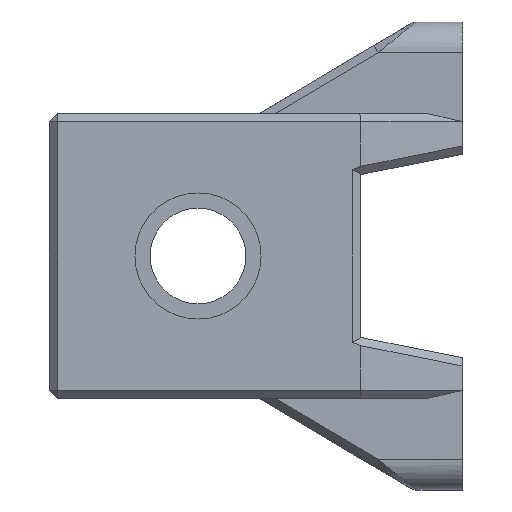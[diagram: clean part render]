
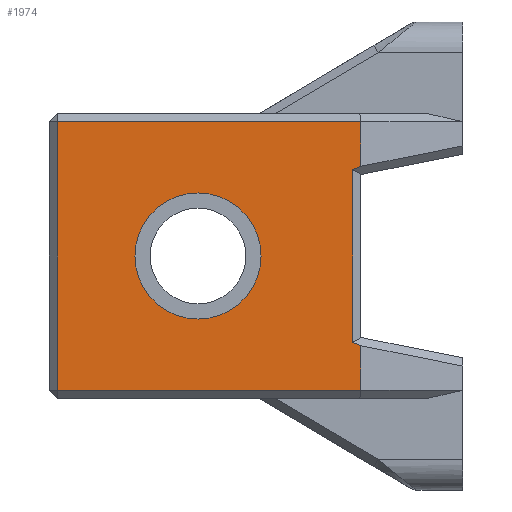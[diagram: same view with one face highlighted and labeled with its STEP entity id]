
A CAD part, left-side view. The second image highlights one B-rep face of the part: STEP entity #1974.
In plain terms, the highlighted planar face has unit normal (-1, 0, 0).
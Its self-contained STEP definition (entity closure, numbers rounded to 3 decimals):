
#88 = CARTESIAN_POINT ( 'NONE',  ( -26.575, 27., 35. ) ) ;
#120 = LINE ( 'NONE', #3238, #170 ) ;
#170 = VECTOR ( 'NONE', #258, 1000. ) ;
#258 = DIRECTION ( 'NONE',  ( 0., 0.92, 0.393 ) ) ;
#371 = EDGE_LOOP ( 'NONE', ( #1910, #1904, #1062, #1058, #1344, #1650, #1210, #886 ) ) ;
#400 = LINE ( 'NONE', #88, #1724 ) ;
#680 = VECTOR ( 'NONE', #5030, 1000. ) ;
#740 = VERTEX_POINT ( 'NONE', #3927 ) ;
#749 = CARTESIAN_POINT ( 'NONE',  ( -26.575, 25., 165. ) ) ;
#802 = AXIS2_PLACEMENT_3D ( 'NONE', #1448, #1663, #1681 ) ;
#886 = ORIENTED_EDGE ( 'NONE', *, *, #3656, .T. ) ;
#910 = CARTESIAN_POINT ( 'NONE',  ( -26.575, 27., 21.184 ) ) ;
#1010 = PLANE ( 'NONE',  #802 ) ;
#1058 = ORIENTED_EDGE ( 'NONE', *, *, #4038, .T. ) ;
#1062 = ORIENTED_EDGE ( 'NONE', *, *, #3890, .F. ) ;
#1081 = VECTOR ( 'NONE', #1570, 1000. ) ;
#1085 = LINE ( 'NONE', #749, #1081 ) ;
#1114 = EDGE_CURVE ( 'NONE', #3269, #1872, #5269, .T. ) ;
#1137 = VERTEX_POINT ( 'NONE', #910 ) ;
#1187 = AXIS2_PLACEMENT_3D ( 'NONE', #3886, #3482, #1296 ) ;
#1200 = DIRECTION ( 'NONE',  ( 0., -0.92, 0.393 ) ) ;
#1210 = ORIENTED_EDGE ( 'NONE', *, *, #3191, .F. ) ;
#1296 = DIRECTION ( 'NONE',  ( 0., 0., 1. ) ) ;
#1333 = CIRCLE ( 'NONE', #2947, 15.5 ) ;
#1344 = ORIENTED_EDGE ( 'NONE', *, *, #4229, .T. ) ;
#1383 = DIRECTION ( 'NONE',  ( 0., 1., 0. ) ) ;
#1448 = CARTESIAN_POINT ( 'NONE',  ( -26.575, 101.5, 35. ) ) ;
#1543 = ORIENTED_EDGE ( 'NONE', *, *, #1114, .F. ) ;
#1547 = ORIENTED_EDGE ( 'NONE', *, *, #3099, .F. ) ;
#1557 = LINE ( 'NONE', #1853, #2701 ) ;
#1570 = DIRECTION ( 'NONE',  ( 0., 0., -1. ) ) ;
#1650 = ORIENTED_EDGE ( 'NONE', *, *, #2703, .T. ) ;
#1663 = DIRECTION ( 'NONE',  ( 1., 0., 0. ) ) ;
#1681 = DIRECTION ( 'NONE',  ( 0., 0., -1. ) ) ;
#1724 = VECTOR ( 'NONE', #3062, 1000. ) ;
#1766 = VECTOR ( 'NONE', #3264, 1000. ) ;
#1800 = LINE ( 'NONE', #3982, #1766 ) ;
#1807 = CARTESIAN_POINT ( 'NONE',  ( -26.575, 101.5, 33. ) ) ;
#1839 = VERTEX_POINT ( 'NONE', #2713 ) ;
#1853 = CARTESIAN_POINT ( 'NONE',  ( -26.575, 25., 165. ) ) ;
#1872 = VERTEX_POINT ( 'NONE', #4611 ) ;
#1904 = ORIENTED_EDGE ( 'NONE', *, *, #3716, .T. ) ;
#1910 = ORIENTED_EDGE ( 'NONE', *, *, #3504, .T. ) ;
#1974 = ADVANCED_FACE ( 'NONE', ( #2473, #2464 ), #1010, .F. ) ;
#2153 = CARTESIAN_POINT ( 'NONE',  ( -26.575, 99.5, 35. ) ) ;
#2284 = DIRECTION ( 'NONE',  ( 0., 0., -1. ) ) ;
#2360 = LINE ( 'NONE', #4198, #4375 ) ;
#2464 = FACE_OUTER_BOUND ( 'NONE', #371, .T. ) ;
#2473 = FACE_BOUND ( 'NONE', #4751, .T. ) ;
#2519 = CARTESIAN_POINT ( 'NONE',  ( -26.575, 99.5, -33. ) ) ;
#2701 = VECTOR ( 'NONE', #2284, 1000. ) ;
#2703 = EDGE_CURVE ( 'NONE', #4878, #4514, #1800, .T. ) ;
#2713 = CARTESIAN_POINT ( 'NONE',  ( -26.575, 27., -21.184 ) ) ;
#2766 = VERTEX_POINT ( 'NONE', #3669 ) ;
#2905 = CARTESIAN_POINT ( 'NONE',  ( -26.575, 65., -15.5 ) ) ;
#2947 = AXIS2_PLACEMENT_3D ( 'NONE', #3659, #4748, #3787 ) ;
#3023 = CARTESIAN_POINT ( 'NONE',  ( -26.575, 25., -22.037 ) ) ;
#3062 = DIRECTION ( 'NONE',  ( 0., 0., 1. ) ) ;
#3099 = EDGE_CURVE ( 'NONE', #1872, #3269, #1333, .T. ) ;
#3135 = VECTOR ( 'NONE', #1383, 1000. ) ;
#3191 = EDGE_CURVE ( 'NONE', #5093, #4514, #1085, .T. ) ;
#3238 = CARTESIAN_POINT ( 'NONE',  ( -26.575, 33.901, -18.238 ) ) ;
#3264 = DIRECTION ( 'NONE',  ( 0., -1., 0. ) ) ;
#3269 = VERTEX_POINT ( 'NONE', #2905 ) ;
#3482 = DIRECTION ( 'NONE',  ( -1., 0., 0. ) ) ;
#3504 = EDGE_CURVE ( 'NONE', #1839, #1137, #400, .T. ) ;
#3656 = EDGE_CURVE ( 'NONE', #5093, #1839, #120, .T. ) ;
#3659 = CARTESIAN_POINT ( 'NONE',  ( -26.575, 65., 0. ) ) ;
#3669 = CARTESIAN_POINT ( 'NONE',  ( -26.575, 25., 22.037 ) ) ;
#3716 = EDGE_CURVE ( 'NONE', #1137, #2766, #2360, .T. ) ;
#3787 = DIRECTION ( 'NONE',  ( 0., 0., 1. ) ) ;
#3886 = CARTESIAN_POINT ( 'NONE',  ( -26.575, 65., 0. ) ) ;
#3890 = EDGE_CURVE ( 'NONE', #740, #2766, #1557, .T. ) ;
#3927 = CARTESIAN_POINT ( 'NONE',  ( -26.575, 25., 33. ) ) ;
#3982 = CARTESIAN_POINT ( 'NONE',  ( -26.575, 101.5, -33. ) ) ;
#4038 = EDGE_CURVE ( 'NONE', #740, #4530, #5286, .T. ) ;
#4198 = CARTESIAN_POINT ( 'NONE',  ( -26.575, 33.901, 18.238 ) ) ;
#4201 = CARTESIAN_POINT ( 'NONE',  ( -26.575, 99.5, 33. ) ) ;
#4229 = EDGE_CURVE ( 'NONE', #4530, #4878, #4832, .T. ) ;
#4375 = VECTOR ( 'NONE', #1200, 1000. ) ;
#4514 = VERTEX_POINT ( 'NONE', #4549 ) ;
#4530 = VERTEX_POINT ( 'NONE', #4201 ) ;
#4549 = CARTESIAN_POINT ( 'NONE',  ( -26.575, 25., -33. ) ) ;
#4611 = CARTESIAN_POINT ( 'NONE',  ( -26.575, 65., 15.5 ) ) ;
#4748 = DIRECTION ( 'NONE',  ( -1., 0., 0. ) ) ;
#4751 = EDGE_LOOP ( 'NONE', ( #1547, #1543 ) ) ;
#4832 = LINE ( 'NONE', #2153, #680 ) ;
#4878 = VERTEX_POINT ( 'NONE', #2519 ) ;
#5030 = DIRECTION ( 'NONE',  ( 0., 0., -1. ) ) ;
#5093 = VERTEX_POINT ( 'NONE', #3023 ) ;
#5269 = CIRCLE ( 'NONE', #1187, 15.5 ) ;
#5286 = LINE ( 'NONE', #1807, #3135 ) ;
